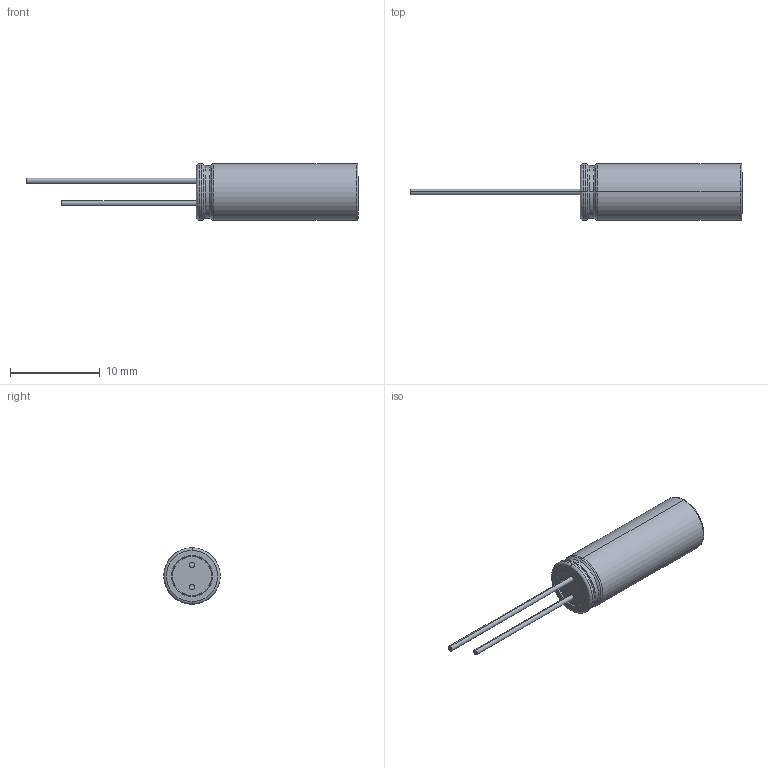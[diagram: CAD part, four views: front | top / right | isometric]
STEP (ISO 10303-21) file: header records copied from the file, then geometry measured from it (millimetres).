
FILE_DESCRIPTION((''),'2;1');
FILE_NAME('HYBRID_RADIAL63X18','2020-05-20T',('xy'),(''),'PRO/ENGINEER BY PARAMETRIC TECHNOLOGY CORPORATION, 2009380','PRO/ENGINEER BY PARAMETRIC TECHNOLOGY CORPORATION, 2009380','');
FILE_SCHEMA(('CONFIG_CONTROL_DESIGN'));
Length unit declared in the file: millimetre
Products named in the file (1): HYBRID_RADIAL63X18
Bounding box: 37.01 x 6.3 x 6.3 mm (x, y, z)
Volume: 563.4 mm3; surface area: 483.7 mm2
Topology: 1 solids, 1 shells, 415 faces, 1146 edges, 758 vertices
Faces by surface type: plane 387, cylinder 13, torus 11, cone 4
Entity records: 13006 total; most frequent: CARTESIAN_POINT 2329, ORIENTED_EDGE 2292, DIRECTION 2020, EDGE_CURVE 1146, VECTOR 1098, LINE 1098, VERTEX_POINT 758, AXIS2_PLACEMENT_3D 461
